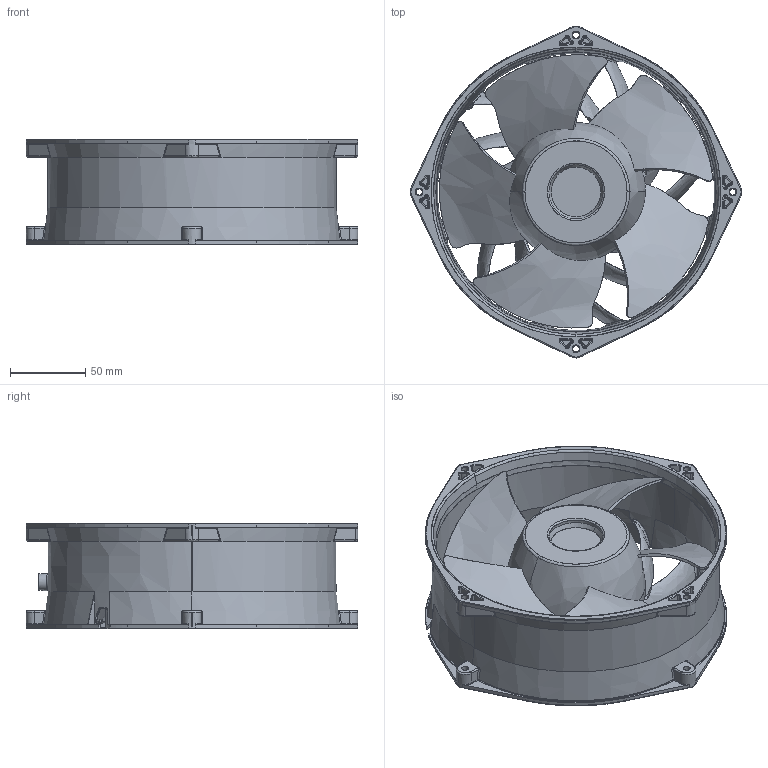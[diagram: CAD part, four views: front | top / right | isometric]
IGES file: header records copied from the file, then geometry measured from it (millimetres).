
Start section: SolidWorks IGES file using analytic representation for surfaces
Bounding box: 220 x 220 x 70 mm (x, y, z)
Surface area: 198769.9 mm2 (no closed solid volume)
Topology: 0 solids, 0 shells, 1496 faces, 16992 edges, 16972 vertices
Faces by surface type: bspline 1193, revolution 303
